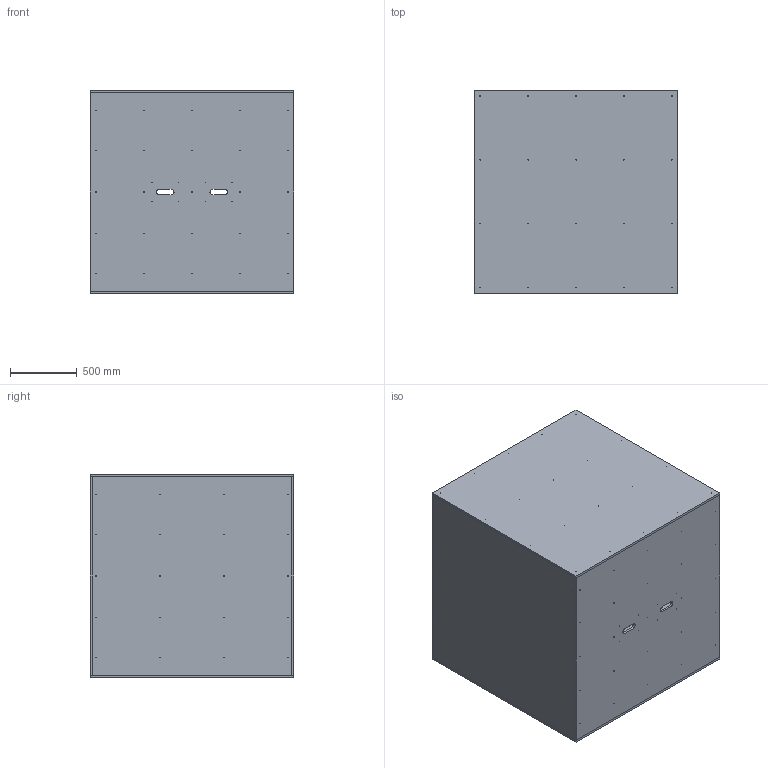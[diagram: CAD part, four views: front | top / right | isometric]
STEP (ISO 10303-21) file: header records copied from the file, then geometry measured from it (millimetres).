
FILE_DESCRIPTION(('Open CASCADE Model'),'2;1');
FILE_NAME('Open CASCADE Shape Model','2026-09-28T10:13:57',('Author'),( 'Open CASCADE'),'Open CASCADE STEP processor 7.9','Open CASCADE 7.9' ,'Unknown');
FILE_SCHEMA(('AUTOMOTIVE_DESIGN { 1 0 10303 214 1 1 1 1 }'));
Length unit declared in the file: millimetre
Products named in the file (53): cube_1525; top; bottom; front; back; left; right; post_0_0; post_0_1; post_0_2; post_0_3; post_1_0; post_1_1; post_1_2; post_1_3; post_2_0; post_2_1; post_2_2; post_2_3; post_3_0; post_3_1; post_3_2; post_3_3; post_4_0; post_4_1; post_4_2; post_4_3; rail_x_0_0; rail_x_0_1; rail_x_0_2; rail_x_0_3; rail_y_0_0; rail_y_0_1; rail_y_0_2; rail_y_0_3; rail_y_0_4; rail_x_1_0; rail_x_1_1; rail_x_1_2; rail_x_1_3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
Assembly tree (52 placements, depth 2):
  cube_1525
    top
    bottom
    front
    back
    left
    right
    post_0_0
    post_0_1
    post_0_2
    post_0_3
    post_1_0
    post_1_1
    post_1_2
    post_1_3
    post_2_0
    post_2_1
    post_2_2
    post_2_3
    post_3_0
    post_3_1
    post_3_2
    post_3_3
    post_4_0
    post_4_1
    post_4_2
    post_4_3
    rail_x_0_0
    rail_x_0_1
    rail_x_0_2
    rail_x_0_3
    rail_y_0_0
    rail_y_0_1
    rail_y_0_2
    rail_y_0_3
    rail_y_0_4
    rail_x_1_0
    rail_x_1_1
    rail_x_1_2
    rail_x_1_3
    rail_y_1_0
    rail_y_1_1
    rail_y_1_2
    rail_y_1_3
    rail_y_1_4
    handle_brace_front_0_0
    handle_brace_front_0_1
    handle_brace_front_1_0
    handle_brace_front_1_1
    handle_brace_back_0_0
    handle_brace_back_0_1
    handle_brace_back_1_0
    handle_brace_back_1_1
Bounding box: 1525 x 1525 x 1525 mm (x, y, z)
Volume: 387532144.8 mm3; surface area: 39545210.2 mm2
Topology: 52 solids, 52 shells, 474 faces, 1110 edges, 740 vertices
Faces by surface type: plane 320, cylinder 154
Full cylindrical faces by diameter (mm): 2.5 x146
Entity records: 29822 total; most frequent: DIRECTION 4660, CARTESIAN_POINT 4629, LINE 2682, VECTOR 2682, ORIENTED_EDGE 2220, PCURVE 2220, DEFINITIONAL_REPRESENTATION 2220, EDGE_CURVE 1110
